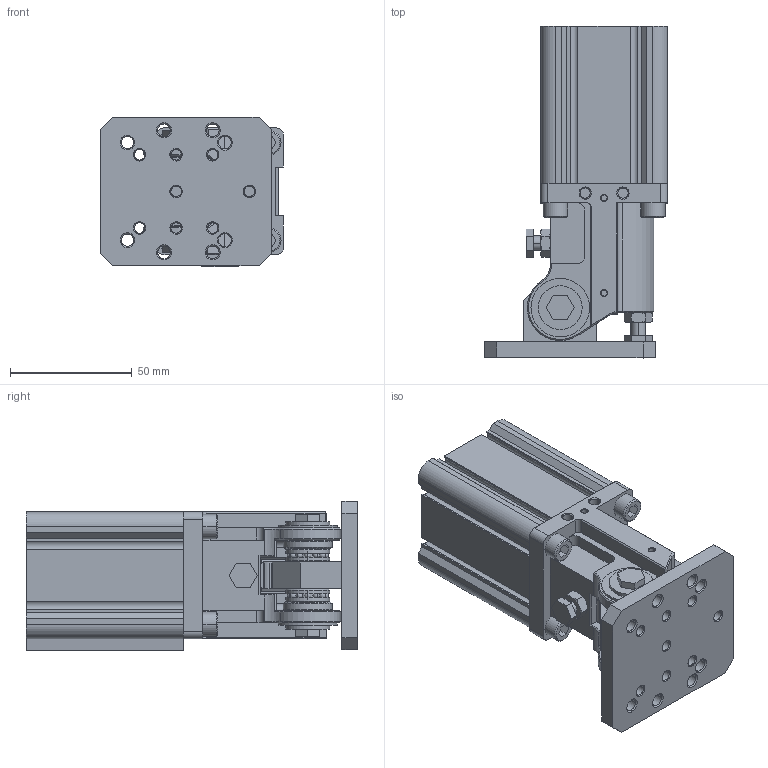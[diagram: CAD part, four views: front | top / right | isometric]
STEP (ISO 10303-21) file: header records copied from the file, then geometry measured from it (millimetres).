
FILE_DESCRIPTION(/* description */ (''),/* implementation_level */ '2;1');
FILE_NAME(/* name */ 'DHR2C-40M30-ZG-ZB(2022).stp',/* time_stamp */ '2022-11-03T13:19:39+08:00',/* author */ (''),/* organization */ (''),/* preprocessor_version */ 'ST-DEVELOPER v14',/* originating_system */ 'SIEMENS PLM Software NX 8.0',/* authorisation */ '');
FILE_SCHEMA (('AP203_CONFIGURATION_CONTROLLED_3D_DESIGN_OF_MECHANICAL_PARTS_AND_ASSEMBLIES_MIM_LF { 1 0 10303 403 2 1 2}'));
Products named in the file (1): Admi1648FD98p4kg
Bounding box: 75.03 x 136.06 x 61.51 mm (x, y, z)
Volume: 263174.9 mm3; surface area: 86113.9 mm2
Topology: 54 solids, 54 shells, 932 faces, 2265 edges, 1388 vertices
Faces by surface type: plane 369, cylinder 280, cone 193, sphere 48, bspline 30, torus 12
Full cylindrical faces by diameter (mm): 6 x2, 10 x5, 12 x1, 18 x2, 20 x2, 24 x2, 41.8 x2
Entity records: 44428 total; most frequent: CARTESIAN_POINT 22814, DIRECTION 4570, ORIENTED_EDGE 4268, EDGE_CURVE 2134, AXIS2_PLACEMENT_3D 1711, VERTEX_POINT 1385, LINE 1148, VECTOR 1148
